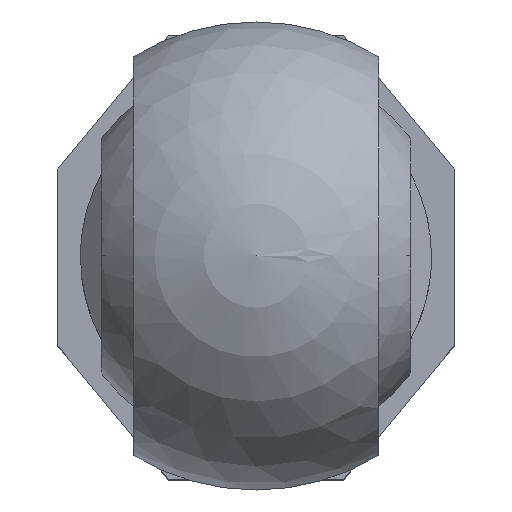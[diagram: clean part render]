
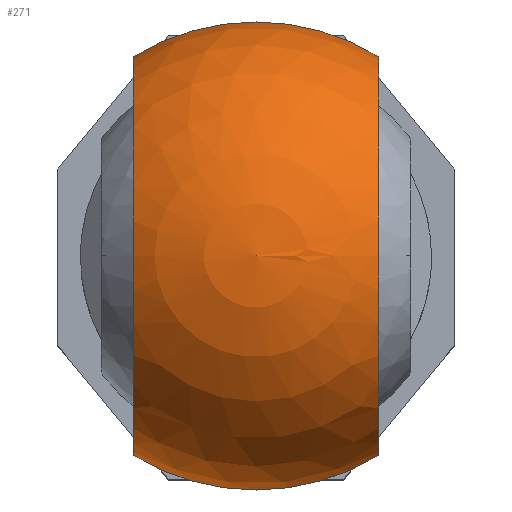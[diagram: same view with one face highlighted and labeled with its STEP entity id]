
A CAD part, top view. The second image highlights one B-rep face of the part: STEP entity #271.
In plain terms, the highlighted spherical face has radius 10 mm.
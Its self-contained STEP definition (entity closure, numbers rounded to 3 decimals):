
#12 = CARTESIAN_POINT ( 'NONE',  ( 0., -10., 0. ) ) ;
#29 = VERTEX_POINT ( 'NONE', #12 ) ;
#33 = DIRECTION ( 'NONE',  ( 1., 0., 0. ) ) ;
#44 = ORIENTED_EDGE ( 'NONE', *, *, #992, .T. ) ;
#46 = ORIENTED_EDGE ( 'NONE', *, *, #84, .F. ) ;
#58 = CIRCLE ( 'NONE', #753, 8.511 ) ;
#75 = DIRECTION ( 'NONE',  ( 0., 0., -1. ) ) ;
#84 = EDGE_CURVE ( 'NONE', #209, #780, #682, .T. ) ;
#114 = DIRECTION ( 'NONE',  ( 0., 0., 1. ) ) ;
#129 = CARTESIAN_POINT ( 'NONE',  ( -5.25, 8.511, 0. ) ) ;
#149 = CIRCLE ( 'NONE', #200, 10. ) ;
#168 = AXIS2_PLACEMENT_3D ( 'NONE', #248, #428, #973 ) ;
#191 = DIRECTION ( 'NONE',  ( 1., 0., 0. ) ) ;
#200 = AXIS2_PLACEMENT_3D ( 'NONE', #334, #747, #33 ) ;
#209 = VERTEX_POINT ( 'NONE', #261 ) ;
#220 = DIRECTION ( 'NONE',  ( 0., 0., -1. ) ) ;
#231 = AXIS2_PLACEMENT_3D ( 'NONE', #479, #75, #794 ) ;
#247 = DIRECTION ( 'NONE',  ( 1., 0., 0. ) ) ;
#248 = CARTESIAN_POINT ( 'NONE',  ( 0., 0., 0. ) ) ;
#255 = CARTESIAN_POINT ( 'NONE',  ( 0., 0., 0. ) ) ;
#261 = CARTESIAN_POINT ( 'NONE',  ( 5.25, 8.511, 0. ) ) ;
#271 = ADVANCED_FACE ( 'NONE', ( #330 ), #378, .T. ) ;
#277 = EDGE_CURVE ( 'NONE', #29, #780, #643, .T. ) ;
#298 = CARTESIAN_POINT ( 'NONE',  ( 5.25, -8.511, 0. ) ) ;
#313 = CARTESIAN_POINT ( 'NONE',  ( 0., 10., 0. ) ) ;
#330 = FACE_OUTER_BOUND ( 'NONE', #333, .T. ) ;
#333 = EDGE_LOOP ( 'NONE', ( #694, #620, #46, #584, #672, #44 ) ) ;
#334 = CARTESIAN_POINT ( 'NONE',  ( 0., 0., 0. ) ) ;
#374 = DIRECTION ( 'NONE',  ( 1., 0., 0. ) ) ;
#378 = SPHERICAL_SURFACE ( 'NONE', #678, 10. ) ;
#408 = CIRCLE ( 'NONE', #231, 10. ) ;
#428 = DIRECTION ( 'NONE',  ( 0., 0., -1. ) ) ;
#479 = CARTESIAN_POINT ( 'NONE',  ( 0., 0., 0. ) ) ;
#491 = CARTESIAN_POINT ( 'NONE',  ( 5.25, 0., 0. ) ) ;
#584 = ORIENTED_EDGE ( 'NONE', *, *, #594, .T. ) ;
#585 = CARTESIAN_POINT ( 'NONE',  ( -5.25, -8.511, 0. ) ) ;
#594 = EDGE_CURVE ( 'NONE', #209, #829, #149, .T. ) ;
#620 = ORIENTED_EDGE ( 'NONE', *, *, #277, .T. ) ;
#621 = CIRCLE ( 'NONE', #168, 10. ) ;
#643 = CIRCLE ( 'NONE', #986, 10. ) ;
#661 = VERTEX_POINT ( 'NONE', #129 ) ;
#672 = ORIENTED_EDGE ( 'NONE', *, *, #743, .F. ) ;
#678 = AXIS2_PLACEMENT_3D ( 'NONE', #862, #220, #785 ) ;
#682 = CIRCLE ( 'NONE', #889, 8.511 ) ;
#694 = ORIENTED_EDGE ( 'NONE', *, *, #920, .F. ) ;
#743 = EDGE_CURVE ( 'NONE', #661, #829, #408, .T. ) ;
#747 = DIRECTION ( 'NONE',  ( 0., 0., 1. ) ) ;
#753 = AXIS2_PLACEMENT_3D ( 'NONE', #910, #191, #114 ) ;
#780 = VERTEX_POINT ( 'NONE', #298 ) ;
#785 = DIRECTION ( 'NONE',  ( 1., 0., 0. ) ) ;
#794 = DIRECTION ( 'NONE',  ( -1., 0., 0. ) ) ;
#829 = VERTEX_POINT ( 'NONE', #313 ) ;
#862 = CARTESIAN_POINT ( 'NONE',  ( 0., 0., 0. ) ) ;
#889 = AXIS2_PLACEMENT_3D ( 'NONE', #491, #247, #972 ) ;
#910 = CARTESIAN_POINT ( 'NONE',  ( -5.25, 0., 0. ) ) ;
#920 = EDGE_CURVE ( 'NONE', #29, #987, #621, .T. ) ;
#947 = DIRECTION ( 'NONE',  ( 0., 0., 1. ) ) ;
#972 = DIRECTION ( 'NONE',  ( 0., 0., 1. ) ) ;
#973 = DIRECTION ( 'NONE',  ( -1., 0., 0. ) ) ;
#986 = AXIS2_PLACEMENT_3D ( 'NONE', #255, #947, #374 ) ;
#987 = VERTEX_POINT ( 'NONE', #585 ) ;
#992 = EDGE_CURVE ( 'NONE', #661, #987, #58, .T. ) ;
